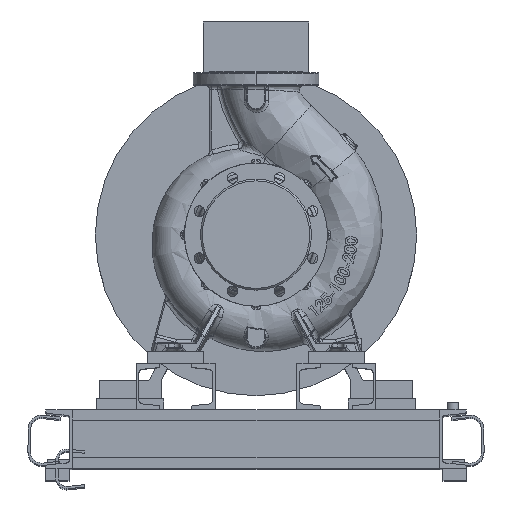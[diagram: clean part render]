
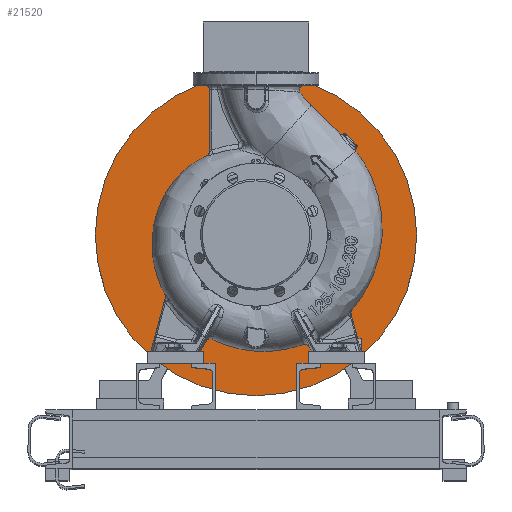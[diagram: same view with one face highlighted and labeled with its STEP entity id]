
A CAD part, top view. The second image highlights one B-rep face of the part: STEP entity #21520.
In plain terms, the highlighted planar face has unit normal (0, 0, 1).
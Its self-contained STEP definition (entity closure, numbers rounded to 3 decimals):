
#5288 = DIRECTION ( 'NONE',  ( 0., 0., 1. ) ) ;
#8890 = DIRECTION ( 'NONE',  ( 0., 0., 1. ) ) ;
#9584 = FACE_BOUND ( 'NONE', #97288, .T. ) ;
#10370 = ORIENTED_EDGE ( 'NONE', *, *, #15560, .F. ) ;
#15025 = DIRECTION ( 'NONE',  ( 0., 0., -1. ) ) ;
#15560 = EDGE_CURVE ( 'NONE', #79019, #25159, #68038, .T. ) ;
#16767 = AXIS2_PLACEMENT_3D ( 'NONE', #55747, #98531, #56112 ) ;
#20642 = ORIENTED_EDGE ( 'NONE', *, *, #48435, .F. ) ;
#21520 = ADVANCED_FACE ( 'NONE', ( #9584, #65079 ), #65597, .F. ) ;
#25116 = AXIS2_PLACEMENT_3D ( 'NONE', #71765, #5288, #30000 ) ;
#25159 = VERTEX_POINT ( 'NONE', #61647 ) ;
#30000 = DIRECTION ( 'NONE',  ( 1., 0., 0. ) ) ;
#31367 = CIRCLE ( 'NONE', #16767, 275. ) ;
#35251 = VERTEX_POINT ( 'NONE', #63900 ) ;
#43553 = AXIS2_PLACEMENT_3D ( 'NONE', #99239, #72707, #63860 ) ;
#46989 = EDGE_LOOP ( 'NONE', ( #99909, #88194 ) ) ;
#48435 = EDGE_CURVE ( 'NONE', #25159, #79019, #72508, .T. ) ;
#49732 = EDGE_CURVE ( 'NONE', #35251, #96143, #31367, .T. ) ;
#52240 = CARTESIAN_POINT ( 'NONE',  ( 275., 0., -274.8 ) ) ;
#53470 = CARTESIAN_POINT ( 'NONE',  ( -125., 0., -274.8 ) ) ;
#55747 = CARTESIAN_POINT ( 'NONE',  ( 0., 0., -274.8 ) ) ;
#56112 = DIRECTION ( 'NONE',  ( 1., 0., 0. ) ) ;
#56738 = CARTESIAN_POINT ( 'NONE',  ( 0., 125., -274.8 ) ) ;
#59477 = AXIS2_PLACEMENT_3D ( 'NONE', #56738, #15025, #99503 ) ;
#61647 = CARTESIAN_POINT ( 'NONE',  ( 125., 0., -274.8 ) ) ;
#63860 = DIRECTION ( 'NONE',  ( 1., 0., 0. ) ) ;
#63900 = CARTESIAN_POINT ( 'NONE',  ( -275., 0., -274.8 ) ) ;
#65079 = FACE_OUTER_BOUND ( 'NONE', #46989, .T. ) ;
#65597 = PLANE ( 'NONE',  #59477 ) ;
#68038 = CIRCLE ( 'NONE', #25116, 125. ) ;
#71765 = CARTESIAN_POINT ( 'NONE',  ( 0., 0., -274.8 ) ) ;
#72508 = CIRCLE ( 'NONE', #43553, 125. ) ;
#72707 = DIRECTION ( 'NONE',  ( 0., 0., 1. ) ) ;
#75694 = CARTESIAN_POINT ( 'NONE',  ( 0., 0., -274.8 ) ) ;
#75954 = CIRCLE ( 'NONE', #88344, 275. ) ;
#77818 = EDGE_CURVE ( 'NONE', #96143, #35251, #75954, .T. ) ;
#79019 = VERTEX_POINT ( 'NONE', #53470 ) ;
#88194 = ORIENTED_EDGE ( 'NONE', *, *, #49732, .T. ) ;
#88344 = AXIS2_PLACEMENT_3D ( 'NONE', #75694, #8890, #93005 ) ;
#93005 = DIRECTION ( 'NONE',  ( 1., 0., 0. ) ) ;
#96143 = VERTEX_POINT ( 'NONE', #52240 ) ;
#97288 = EDGE_LOOP ( 'NONE', ( #20642, #10370 ) ) ;
#98531 = DIRECTION ( 'NONE',  ( 0., 0., 1. ) ) ;
#99239 = CARTESIAN_POINT ( 'NONE',  ( 0., 0., -274.8 ) ) ;
#99503 = DIRECTION ( 'NONE',  ( -1., 0., 0. ) ) ;
#99909 = ORIENTED_EDGE ( 'NONE', *, *, #77818, .T. ) ;
